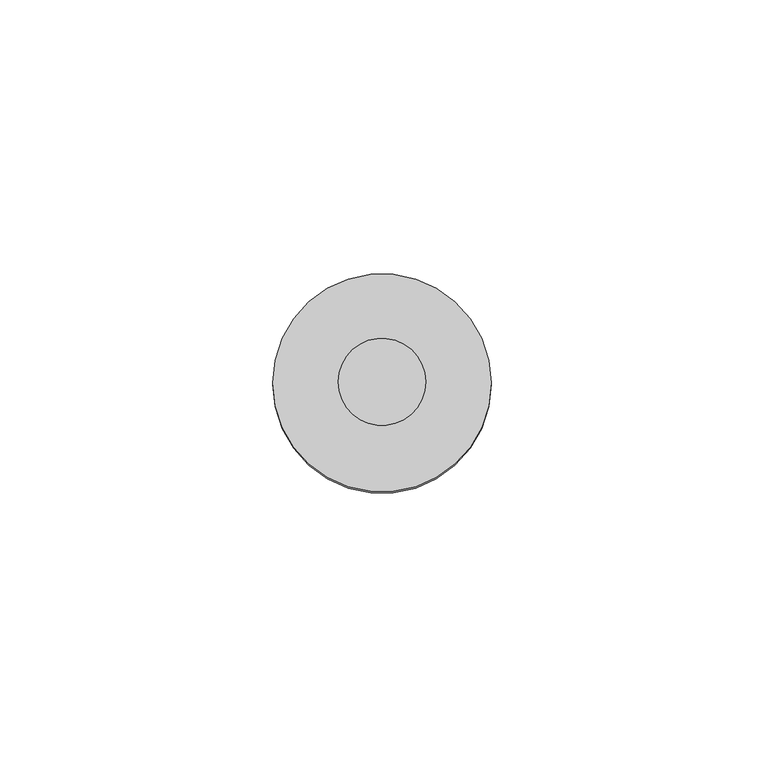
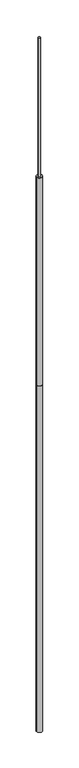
"""IFC4 building model written with IfcOpenShell, lengths in millimetres: proxy geometry, КНС_МачтаИзолированнаяМолниеприемная_DKC : NL5000HV_Нержавеющая сталь_5м."""

from ifc_helpers import new_model, si_unit, point, frame, origin, origin_with_axes, origin_2d, place, context, project, spatial, circle_curve, trimmed, segment, composite_curve, outline, extrude, source, transform, mapped, element, save


def security_devices_825c0fe0(model_context):
    return source(origin(), model_context, "Body", "SweptSolid", [
        extrude(outline(composite_curve([segment(trimmed(circle_curve(origin_2d(), 8.0), [point((-8.0, 0.0))], [point((8.0, 0.0))], False, "CARTESIAN"), True, "CONTINUOUS"), segment(trimmed(circle_curve(origin_2d(), 8.0), [point((8.0, 0.0))], [point((-8.0, 0.0))], False, "CARTESIAN"), True, "CONTINUOUS")], self_intersect=False)), frame((0.0, 0.0, 4000.0), z_axis=(0.0, 0.0, 1.0), x_axis=(1.0, 0.0, 0.0)), (0.0, 0.0, 1.0), 1000.0),
        extrude(outline(composite_curve([segment(trimmed(circle_curve(origin_2d(), 20.0), [point((-20.0, 0.0))], [point((20.0, 0.0))], False, "CARTESIAN"), True, "CONTINUOUS"), segment(trimmed(circle_curve(origin_2d(), 20.0), [point((20.0, 0.0))], [point((-20.0, 0.0))], False, "CARTESIAN"), True, "CONTINUOUS")], self_intersect=False)), frame((0.0, 0.0, 2500.0), z_axis=(0.0, 0.0, 1.0), x_axis=(1.0, 0.0, 0.0)), (0.0, 0.0, 1.0), 1500.0),
        extrude(outline(composite_curve([segment(trimmed(circle_curve(origin_2d(), 20.0), [point((-20.0, 0.0))], [point((20.0, 0.0))], False, "CARTESIAN"), True, "CONTINUOUS"), segment(trimmed(circle_curve(origin_2d(), 20.0), [point((20.0, 0.0))], [point((-20.0, 0.0))], False, "CARTESIAN"), True, "CONTINUOUS")], self_intersect=False)), origin_with_axes(), (0.0, 0.0, 1.0), 2500.0),
    ])


if __name__ == "__main__":
    model = new_model("IFC4")
    model_context = context("Model", 3, world=origin())
    ifc_project = project(units=[si_unit("LENGTHUNIT", "METRE", prefix="MILLI")], contexts=[model_context])
    site = spatial("IfcSite", under=ifc_project)
    building = spatial("IfcBuilding", under=site)
    placement = place(None, origin())
    security_devices_shape = security_devices_825c0fe0(model_context)
    element("IfcBuildingElementProxy", 1, Name="КНС_МачтаИзолированнаяМолниеприемная_DKC : NL5000HV_Нержавеющая сталь_5м", ObjectType="КНС_МачтаИзолированнаяМолниеприемная_DKC : NL5000HV_Нержавеющая сталь_5м", at=placement, inside=building, context=model_context, shape_type="MappedRepresentation", body=[
        mapped(security_devices_shape, transform((0.0, 0.0, 0.0), x_axis=(1.0, 0.0, 0.0), y_axis=(0.0, 1.0, 0.0), z_axis=(0.0, 0.0, 1.0))),
    ])
    save(model, "model.ifc")
